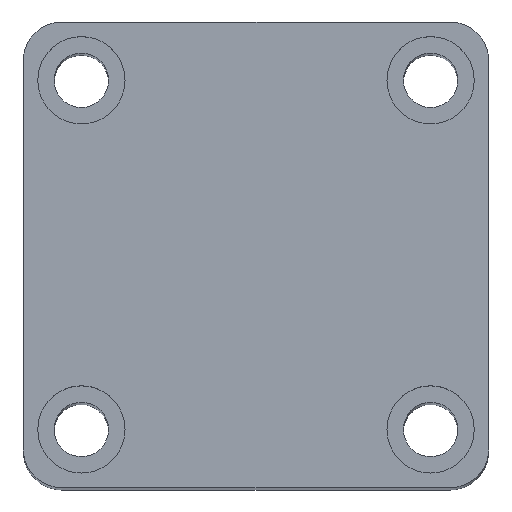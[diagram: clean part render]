
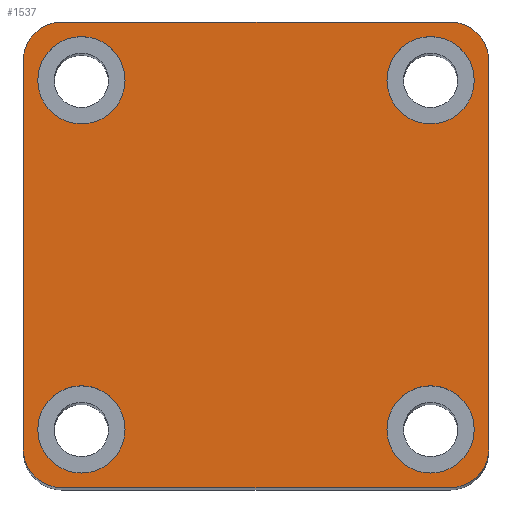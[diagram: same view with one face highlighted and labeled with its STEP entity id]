
A CAD part, top view. The second image highlights one B-rep face of the part: STEP entity #1537.
In plain terms, the highlighted planar face has unit normal (0, 0, 1).
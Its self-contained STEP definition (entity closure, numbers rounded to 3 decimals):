
#89 = CIRCLE ( 'NONE', #428, 4.5 ) ;
#102 = VECTOR ( 'NONE', #727, 1000. ) ;
#104 = LINE ( 'NONE', #726, #102 ) ;
#119 = VECTOR ( 'NONE', #696, 1000. ) ;
#125 = VECTOR ( 'NONE', #692, 1000. ) ;
#126 = LINE ( 'NONE', #697, #119 ) ;
#129 = LINE ( 'NONE', #693, #125 ) ;
#428 = AXIS2_PLACEMENT_3D ( 'NONE', #777, #776, #775 ) ;
#430 = AXIS2_PLACEMENT_3D ( 'NONE', #788, #787, #786 ) ;
#439 = AXIS2_PLACEMENT_3D ( 'NONE', #569, #564, #763 ) ;
#440 = AXIS2_PLACEMENT_3D ( 'NONE', #608, #606, #604 ) ;
#441 = AXIS2_PLACEMENT_3D ( 'NONE', #624, #619, #614 ) ;
#443 = AXIS2_PLACEMENT_3D ( 'NONE', #647, #645, #644 ) ;
#445 = AXIS2_PLACEMENT_3D ( 'NONE', #675, #668, #664 ) ;
#471 = AXIS2_PLACEMENT_3D ( 'NONE', #723, #720, #717 ) ;
#472 = AXIS2_PLACEMENT_3D ( 'NONE', #711, #705, #703 ) ;
#474 = AXIS2_PLACEMENT_3D ( 'NONE', #746, #750, #744 ) ;
#475 = AXIS2_PLACEMENT_3D ( 'NONE', #1737, #1734, #1733 ) ;
#483 = AXIS2_PLACEMENT_3D ( 'NONE', #1731, #1730, #1729 ) ;
#556 = DIRECTION ( 'NONE',  ( 1., 0., 0. ) ) ;
#560 = CARTESIAN_POINT ( 'NONE',  ( -24., -24., 140. ) ) ;
#564 = DIRECTION ( 'NONE',  ( 0., 0., 1. ) ) ;
#569 = CARTESIAN_POINT ( 'NONE',  ( -20., -20., 140. ) ) ;
#604 = DIRECTION ( 'NONE',  ( 1., 0., 0. ) ) ;
#606 = DIRECTION ( 'NONE',  ( 0., 0., 1. ) ) ;
#608 = CARTESIAN_POINT ( 'NONE',  ( -18., -18., 140. ) ) ;
#614 = DIRECTION ( 'NONE',  ( 1., 0., 0. ) ) ;
#619 = DIRECTION ( 'NONE',  ( 0., 0., 1. ) ) ;
#624 = CARTESIAN_POINT ( 'NONE',  ( 18., 18., 140. ) ) ;
#644 = DIRECTION ( 'NONE',  ( 1., 0., 0. ) ) ;
#645 = DIRECTION ( 'NONE',  ( 0., 0., 1. ) ) ;
#647 = CARTESIAN_POINT ( 'NONE',  ( 18., -18., 140. ) ) ;
#664 = DIRECTION ( 'NONE',  ( 1., 0., 0. ) ) ;
#668 = DIRECTION ( 'NONE',  ( 0., 0., 1. ) ) ;
#675 = CARTESIAN_POINT ( 'NONE',  ( -18., 18., 140. ) ) ;
#692 = DIRECTION ( 'NONE',  ( 0., -1., 0. ) ) ;
#693 = CARTESIAN_POINT ( 'NONE',  ( -24., 24., 140. ) ) ;
#696 = DIRECTION ( 'NONE',  ( -1., 0., 0. ) ) ;
#697 = CARTESIAN_POINT ( 'NONE',  ( -24., 24., 140. ) ) ;
#703 = DIRECTION ( 'NONE',  ( 1., 0., 0. ) ) ;
#705 = DIRECTION ( 'NONE',  ( 0., 0., 1. ) ) ;
#711 = CARTESIAN_POINT ( 'NONE',  ( -18., 18., 140. ) ) ;
#717 = DIRECTION ( 'NONE',  ( 1., 0., 0. ) ) ;
#720 = DIRECTION ( 'NONE',  ( 0., 0., 1. ) ) ;
#723 = CARTESIAN_POINT ( 'NONE',  ( 20., -20., 140. ) ) ;
#726 = CARTESIAN_POINT ( 'NONE',  ( 24., 24., 140. ) ) ;
#727 = DIRECTION ( 'NONE',  ( 0., 1., 0. ) ) ;
#744 = DIRECTION ( 'NONE',  ( 1., 0., 0. ) ) ;
#746 = CARTESIAN_POINT ( 'NONE',  ( -20., 20., 140. ) ) ;
#750 = DIRECTION ( 'NONE',  ( 0., 0., 1. ) ) ;
#763 = DIRECTION ( 'NONE',  ( 1., 0., 0. ) ) ;
#775 = DIRECTION ( 'NONE',  ( 1., 0., 0. ) ) ;
#776 = DIRECTION ( 'NONE',  ( 0., 0., 1. ) ) ;
#777 = CARTESIAN_POINT ( 'NONE',  ( -18., -18., 140. ) ) ;
#786 = DIRECTION ( 'NONE',  ( 1., 0., 0. ) ) ;
#787 = DIRECTION ( 'NONE',  ( 0., 0., 1. ) ) ;
#788 = CARTESIAN_POINT ( 'NONE',  ( 18., 18., 140. ) ) ;
#923 = CIRCLE ( 'NONE', #430, 4.5 ) ;
#932 = VECTOR ( 'NONE', #556, 1000. ) ;
#935 = LINE ( 'NONE', #560, #932 ) ;
#940 = CIRCLE ( 'NONE', #439, 4. ) ;
#943 = CIRCLE ( 'NONE', #440, 4.5 ) ;
#944 = CIRCLE ( 'NONE', #441, 4.5 ) ;
#947 = CIRCLE ( 'NONE', #443, 4.5 ) ;
#949 = CIRCLE ( 'NONE', #445, 4.5 ) ;
#951 = CIRCLE ( 'NONE', #472, 4.5 ) ;
#955 = CIRCLE ( 'NONE', #471, 4. ) ;
#960 = CIRCLE ( 'NONE', #474, 4. ) ;
#972 = CIRCLE ( 'NONE', #483, 4.5 ) ;
#975 = CIRCLE ( 'NONE', #475, 4. ) ;
#1223 = FACE_BOUND ( 'NONE', #1342, .T. ) ;
#1224 = FACE_OUTER_BOUND ( 'NONE', #1338, .T. ) ;
#1227 = FACE_BOUND ( 'NONE', #1311, .T. ) ;
#1231 = FACE_BOUND ( 'NONE', #1322, .T. ) ;
#1232 = FACE_BOUND ( 'NONE', #1357, .T. ) ;
#1237 = ORIENTED_EDGE ( 'NONE', *, *, #1637, .T. ) ;
#1239 = ORIENTED_EDGE ( 'NONE', *, *, #1679, .T. ) ;
#1240 = ORIENTED_EDGE ( 'NONE', *, *, #1633, .F. ) ;
#1241 = ORIENTED_EDGE ( 'NONE', *, *, #1631, .F. ) ;
#1242 = ORIENTED_EDGE ( 'NONE', *, *, #1622, .T. ) ;
#1243 = ORIENTED_EDGE ( 'NONE', *, *, #1652, .F. ) ;
#1245 = ORIENTED_EDGE ( 'NONE', *, *, #1629, .F. ) ;
#1246 = ORIENTED_EDGE ( 'NONE', *, *, #1639, .T. ) ;
#1247 = ORIENTED_EDGE ( 'NONE', *, *, #1625, .T. ) ;
#1248 = ORIENTED_EDGE ( 'NONE', *, *, #1634, .F. ) ;
#1250 = ORIENTED_EDGE ( 'NONE', *, *, #1649, .F. ) ;
#1252 = ORIENTED_EDGE ( 'NONE', *, *, #1626, .F. ) ;
#1257 = ORIENTED_EDGE ( 'NONE', *, *, #1677, .T. ) ;
#1258 = ORIENTED_EDGE ( 'NONE', *, *, #1613, .F. ) ;
#1282 = ORIENTED_EDGE ( 'NONE', *, *, #1612, .T. ) ;
#1283 = ORIENTED_EDGE ( 'NONE', *, *, #1670, .T. ) ;
#1311 = EDGE_LOOP ( 'NONE', ( #1240, #1250 ) ) ;
#1322 = EDGE_LOOP ( 'NONE', ( #1248, #1243 ) ) ;
#1338 = EDGE_LOOP ( 'NONE', ( #1257, #1242, #1239, #1237, #1246, #1247, #1283, #1282 ) ) ;
#1342 = EDGE_LOOP ( 'NONE', ( #1252, #1245 ) ) ;
#1357 = EDGE_LOOP ( 'NONE', ( #1241, #1258 ) ) ;
#1413 = VERTEX_POINT ( 'NONE', #2011 ) ;
#1418 = VERTEX_POINT ( 'NONE', #2034 ) ;
#1424 = VERTEX_POINT ( 'NONE', #2026 ) ;
#1436 = VERTEX_POINT ( 'NONE', #1985 ) ;
#1442 = VERTEX_POINT ( 'NONE', #1972 ) ;
#1463 = VERTEX_POINT ( 'NONE', #1929 ) ;
#1466 = VERTEX_POINT ( 'NONE', #1919 ) ;
#1469 = VERTEX_POINT ( 'NONE', #1920 ) ;
#1476 = VERTEX_POINT ( 'NONE', #1902 ) ;
#1478 = VERTEX_POINT ( 'NONE', #1898 ) ;
#1484 = VERTEX_POINT ( 'NONE', #1885 ) ;
#1500 = VERTEX_POINT ( 'NONE', #1872 ) ;
#1506 = VERTEX_POINT ( 'NONE', #1835 ) ;
#1513 = VERTEX_POINT ( 'NONE', #1842 ) ;
#1514 = VERTEX_POINT ( 'NONE', #1819 ) ;
#1518 = VERTEX_POINT ( 'NONE', #1808 ) ;
#1537 = ADVANCED_FACE ( 'NONE', ( #1223, #1227, #1231, #1232, #1224 ), #1753, .T. ) ;
#1612 = EDGE_CURVE ( 'NONE', #1513, #1413, #975, .T. ) ;
#1613 = EDGE_CURVE ( 'NONE', #1476, #1514, #972, .T. ) ;
#1622 = EDGE_CURVE ( 'NONE', #1478, #1469, #960, .T. ) ;
#1625 = EDGE_CURVE ( 'NONE', #1506, #1500, #955, .T. ) ;
#1626 = EDGE_CURVE ( 'NONE', #1436, #1518, #951, .T. ) ;
#1629 = EDGE_CURVE ( 'NONE', #1518, #1436, #949, .T. ) ;
#1631 = EDGE_CURVE ( 'NONE', #1514, #1476, #947, .T. ) ;
#1633 = EDGE_CURVE ( 'NONE', #1466, #1463, #944, .T. ) ;
#1634 = EDGE_CURVE ( 'NONE', #1484, #1442, #943, .T. ) ;
#1637 = EDGE_CURVE ( 'NONE', #1424, #1418, #940, .T. ) ;
#1639 = EDGE_CURVE ( 'NONE', #1418, #1506, #935, .T. ) ;
#1649 = EDGE_CURVE ( 'NONE', #1463, #1466, #923, .T. ) ;
#1652 = EDGE_CURVE ( 'NONE', #1442, #1484, #89, .T. ) ;
#1670 = EDGE_CURVE ( 'NONE', #1500, #1513, #104, .T. ) ;
#1677 = EDGE_CURVE ( 'NONE', #1413, #1478, #126, .T. ) ;
#1679 = EDGE_CURVE ( 'NONE', #1469, #1424, #129, .T. ) ;
#1729 = DIRECTION ( 'NONE',  ( 1., 0., 0. ) ) ;
#1730 = DIRECTION ( 'NONE',  ( 0., 0., 1. ) ) ;
#1731 = CARTESIAN_POINT ( 'NONE',  ( 18., -18., 140. ) ) ;
#1733 = DIRECTION ( 'NONE',  ( 1., 0., 0. ) ) ;
#1734 = DIRECTION ( 'NONE',  ( 0., 0., 1. ) ) ;
#1737 = CARTESIAN_POINT ( 'NONE',  ( 20., 20., 140. ) ) ;
#1746 = DIRECTION ( 'NONE',  ( 1., 0., 0. ) ) ;
#1748 = CARTESIAN_POINT ( 'NONE',  ( 0., 0., 140. ) ) ;
#1753 = PLANE ( 'NONE',  #2677 ) ;
#1772 = DIRECTION ( 'NONE',  ( 0., 0., 1. ) ) ;
#1808 = CARTESIAN_POINT ( 'NONE',  ( -22.5, 18., 140. ) ) ;
#1819 = CARTESIAN_POINT ( 'NONE',  ( 22.5, -18., 140. ) ) ;
#1835 = CARTESIAN_POINT ( 'NONE',  ( 20., -24., 140. ) ) ;
#1842 = CARTESIAN_POINT ( 'NONE',  ( 24., 20., 140. ) ) ;
#1872 = CARTESIAN_POINT ( 'NONE',  ( 24., -20., 140. ) ) ;
#1885 = CARTESIAN_POINT ( 'NONE',  ( -13.5, -18., 140. ) ) ;
#1898 = CARTESIAN_POINT ( 'NONE',  ( -20., 24., 140. ) ) ;
#1902 = CARTESIAN_POINT ( 'NONE',  ( 13.5, -18., 140. ) ) ;
#1919 = CARTESIAN_POINT ( 'NONE',  ( 22.5, 18., 140. ) ) ;
#1920 = CARTESIAN_POINT ( 'NONE',  ( -24., 20., 140. ) ) ;
#1929 = CARTESIAN_POINT ( 'NONE',  ( 13.5, 18., 140. ) ) ;
#1972 = CARTESIAN_POINT ( 'NONE',  ( -22.5, -18., 140. ) ) ;
#1985 = CARTESIAN_POINT ( 'NONE',  ( -13.5, 18., 140. ) ) ;
#2011 = CARTESIAN_POINT ( 'NONE',  ( 20., 24., 140. ) ) ;
#2026 = CARTESIAN_POINT ( 'NONE',  ( -24., -20., 140. ) ) ;
#2034 = CARTESIAN_POINT ( 'NONE',  ( -20., -24., 140. ) ) ;
#2677 = AXIS2_PLACEMENT_3D ( 'NONE', #1748, #1772, #1746 ) ;
